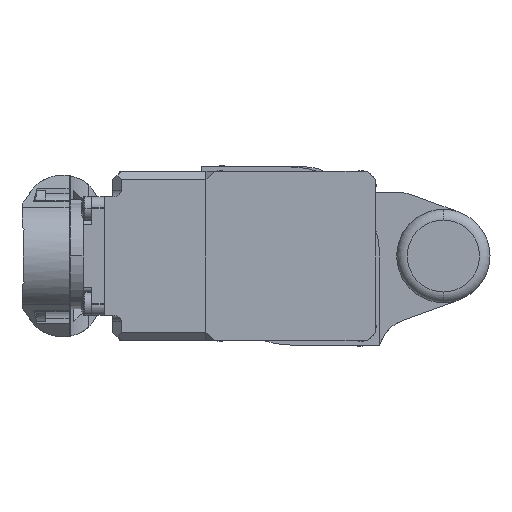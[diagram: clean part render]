
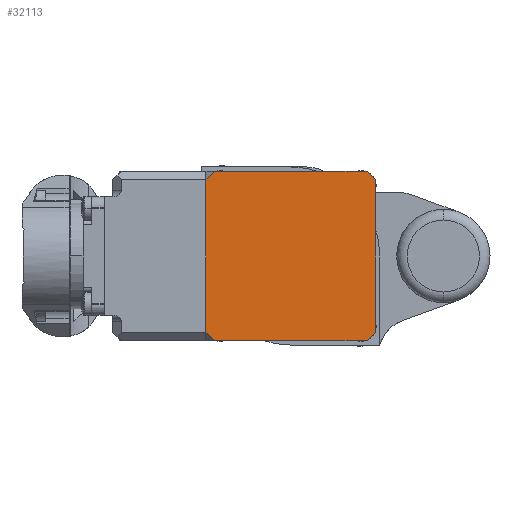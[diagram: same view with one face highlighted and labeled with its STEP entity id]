
A CAD part, left-side view. The second image highlights one B-rep face of the part: STEP entity #32113.
In plain terms, the highlighted planar face has unit normal (-1, 0, 0).
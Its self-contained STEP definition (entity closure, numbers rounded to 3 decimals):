
#958 = CARTESIAN_POINT ( 'NONE',  ( -113., -20., 18. ) ) ;
#1620 = VECTOR ( 'NONE', #8910, 1000. ) ;
#2366 = EDGE_CURVE ( 'NONE', #66689, #24838, #42777, .T. ) ;
#3983 = EDGE_CURVE ( 'NONE', #34110, #52813, #5586, .T. ) ;
#4642 = CARTESIAN_POINT ( 'NONE',  ( -113., -20., 18. ) ) ;
#5525 = LINE ( 'NONE', #44162, #18633 ) ;
#5586 = LINE ( 'NONE', #71974, #33529 ) ;
#7004 = CARTESIAN_POINT ( 'NONE',  ( -113., 18., 20. ) ) ;
#7088 = CARTESIAN_POINT ( 'NONE',  ( -113., 18., -20. ) ) ;
#8233 = ORIENTED_EDGE ( 'NONE', *, *, #32458, .T. ) ;
#8910 = DIRECTION ( 'NONE',  ( 0., 0., -1. ) ) ;
#11957 = DIRECTION ( 'NONE',  ( 0., 0., 1. ) ) ;
#14372 = ORIENTED_EDGE ( 'NONE', *, *, #46535, .T. ) ;
#16168 = CARTESIAN_POINT ( 'NONE',  ( -113., 20., -18. ) ) ;
#16431 = DIRECTION ( 'NONE',  ( 0., -1., 0. ) ) ;
#16522 = VECTOR ( 'NONE', #70646, 1000. ) ;
#18633 = VECTOR ( 'NONE', #16431, 1000. ) ;
#19048 = DIRECTION ( 'NONE',  ( 0., -0.707, 0.707 ) ) ;
#21762 = LINE ( 'NONE', #41680, #47805 ) ;
#22938 = CARTESIAN_POINT ( 'NONE',  ( -113., 0., 0. ) ) ;
#23238 = DIRECTION ( 'NONE',  ( 0., 1., 0. ) ) ;
#24209 = ORIENTED_EDGE ( 'NONE', *, *, #3983, .T. ) ;
#24838 = VERTEX_POINT ( 'NONE', #958 ) ;
#26100 = LINE ( 'NONE', #42300, #1620 ) ;
#26928 = ORIENTED_EDGE ( 'NONE', *, *, #49254, .T. ) ;
#27270 = LINE ( 'NONE', #57976, #58563 ) ;
#28496 = VECTOR ( 'NONE', #43663, 1000. ) ;
#28554 = PLANE ( 'NONE',  #40301 ) ;
#28597 = ORIENTED_EDGE ( 'NONE', *, *, #64113, .T. ) ;
#29354 = VERTEX_POINT ( 'NONE', #61769 ) ;
#32113 = ADVANCED_FACE ( 'NONE', ( #37485 ), #28554, .T. ) ;
#32214 = ORIENTED_EDGE ( 'NONE', *, *, #32315, .T. ) ;
#32315 = EDGE_CURVE ( 'NONE', #72267, #68592, #21762, .T. ) ;
#32458 = EDGE_CURVE ( 'NONE', #52813, #29354, #38319, .T. ) ;
#32951 = EDGE_CURVE ( 'NONE', #29354, #72267, #26100, .T. ) ;
#33529 = VECTOR ( 'NONE', #23238, 1000. ) ;
#34110 = VERTEX_POINT ( 'NONE', #56875 ) ;
#37485 = FACE_OUTER_BOUND ( 'NONE', #67346, .T. ) ;
#38319 = LINE ( 'NONE', #42626, #16522 ) ;
#40301 = AXIS2_PLACEMENT_3D ( 'NONE', #22938, #45294, #11957 ) ;
#41680 = CARTESIAN_POINT ( 'NONE',  ( -113., 20., -18. ) ) ;
#42300 = CARTESIAN_POINT ( 'NONE',  ( -113., 20., 18. ) ) ;
#42626 = CARTESIAN_POINT ( 'NONE',  ( -113., 18., 20. ) ) ;
#42777 = LINE ( 'NONE', #44461, #57575 ) ;
#43663 = DIRECTION ( 'NONE',  ( 0., 0.707, 0.707 ) ) ;
#44162 = CARTESIAN_POINT ( 'NONE',  ( -113., 18., -20. ) ) ;
#44461 = CARTESIAN_POINT ( 'NONE',  ( -113., -20., -18. ) ) ;
#45294 = DIRECTION ( 'NONE',  ( -1., 0., 0. ) ) ;
#46535 = EDGE_CURVE ( 'NONE', #47824, #66689, #27270, .T. ) ;
#47805 = VECTOR ( 'NONE', #69650, 1000. ) ;
#47824 = VERTEX_POINT ( 'NONE', #48746 ) ;
#48744 = DIRECTION ( 'NONE',  ( 0., 0., 1. ) ) ;
#48746 = CARTESIAN_POINT ( 'NONE',  ( -113., -18., -20. ) ) ;
#49254 = EDGE_CURVE ( 'NONE', #68592, #47824, #5525, .T. ) ;
#52813 = VERTEX_POINT ( 'NONE', #7004 ) ;
#56875 = CARTESIAN_POINT ( 'NONE',  ( -113., -18., 20. ) ) ;
#57575 = VECTOR ( 'NONE', #48744, 1000. ) ;
#57976 = CARTESIAN_POINT ( 'NONE',  ( -113., -18., -20. ) ) ;
#58072 = LINE ( 'NONE', #4642, #28496 ) ;
#58563 = VECTOR ( 'NONE', #19048, 1000. ) ;
#58643 = ORIENTED_EDGE ( 'NONE', *, *, #32951, .T. ) ;
#61769 = CARTESIAN_POINT ( 'NONE',  ( -113., 20., 18. ) ) ;
#64113 = EDGE_CURVE ( 'NONE', #24838, #34110, #58072, .T. ) ;
#65696 = ORIENTED_EDGE ( 'NONE', *, *, #2366, .T. ) ;
#66689 = VERTEX_POINT ( 'NONE', #71433 ) ;
#67346 = EDGE_LOOP ( 'NONE', ( #14372, #65696, #28597, #24209, #8233, #58643, #32214, #26928 ) ) ;
#68592 = VERTEX_POINT ( 'NONE', #7088 ) ;
#69650 = DIRECTION ( 'NONE',  ( 0., -0.707, -0.707 ) ) ;
#70646 = DIRECTION ( 'NONE',  ( 0., 0.707, -0.707 ) ) ;
#71433 = CARTESIAN_POINT ( 'NONE',  ( -113., -20., -18. ) ) ;
#71974 = CARTESIAN_POINT ( 'NONE',  ( -113., -18., 20. ) ) ;
#72267 = VERTEX_POINT ( 'NONE', #16168 ) ;
